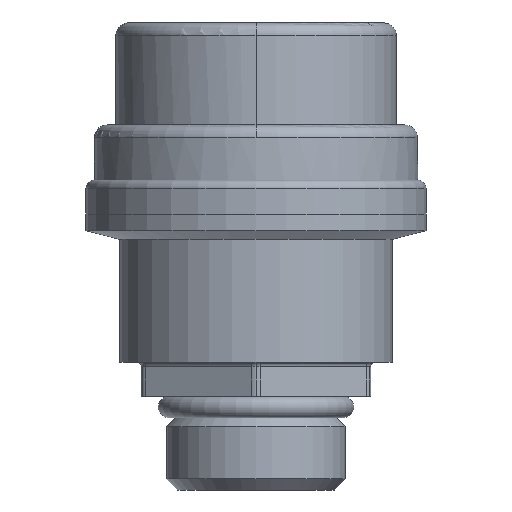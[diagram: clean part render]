
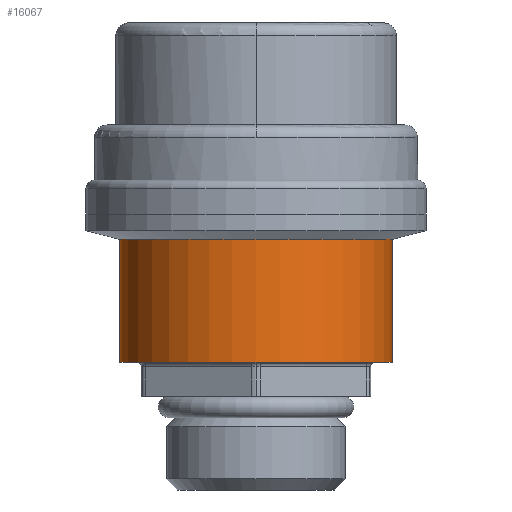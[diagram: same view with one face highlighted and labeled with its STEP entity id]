
A CAD part, front view. The second image highlights one B-rep face of the part: STEP entity #16067.
In plain terms, the highlighted cylindrical face has radius 16 mm (diameter 32 mm), a full revolution.
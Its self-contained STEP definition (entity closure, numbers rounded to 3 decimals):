
#14886=CARTESIAN_POINT('',(-0.,-16.,15.038));
#14887=VERTEX_POINT('',#14886);
#14888=CARTESIAN_POINT('',(0.,16.,15.038));
#14889=VERTEX_POINT('',#14888);
#14890=CARTESIAN_POINT('',(0.,0.,15.038));
#14891=DIRECTION('',(0.,-0.,1.));
#14892=DIRECTION('',(0.,-1.,-0.));
#14893=AXIS2_PLACEMENT_3D('',#14890,#14891,#14892);
#14894=CIRCLE('',#14893,16.);
#14895=EDGE_CURVE('',#14887,#14889,#14894,.T.);
#14897=CARTESIAN_POINT('',(0.,0.,15.038));
#14898=DIRECTION('',(0.,-0.,1.));
#14899=DIRECTION('',(0.,-1.,-0.));
#14900=AXIS2_PLACEMENT_3D('',#14897,#14898,#14899);
#14901=CIRCLE('',#14900,16.);
#14902=EDGE_CURVE('',#14889,#14887,#14901,.T.);
#16033=CARTESIAN_POINT('',(0.,0.,22.276));
#16034=DIRECTION('',(0.,-0.,1.));
#16035=DIRECTION('',(0.,-1.,-0.));
#16036=AXIS2_PLACEMENT_3D('',#16033,#16034,#16035);
#16037=CYLINDRICAL_SURFACE('',#16036,16.);
#16038=CARTESIAN_POINT('',(-0.,-16.,29.515));
#16039=VERTEX_POINT('',#16038);
#16040=CARTESIAN_POINT('',(0.,-16.,29.515));
#16041=DIRECTION('',(-0.,0.,-1.));
#16042=VECTOR('',#16041,14.477);
#16043=LINE('',#16040,#16042);
#16044=EDGE_CURVE('',#16039,#14887,#16043,.T.);
#16045=ORIENTED_EDGE('',*,*,#16044,.T.);
#16046=ORIENTED_EDGE('',*,*,#14895,.T.);
#16047=ORIENTED_EDGE('',*,*,#14902,.T.);
#16048=ORIENTED_EDGE('',*,*,#16044,.F.);
#16049=CARTESIAN_POINT('',(0.,16.,29.515));
#16050=VERTEX_POINT('',#16049);
#16051=CARTESIAN_POINT('',(0.,0.,29.515));
#16052=DIRECTION('',(0.,-0.,1.));
#16053=DIRECTION('',(0.,-1.,-0.));
#16054=AXIS2_PLACEMENT_3D('',#16051,#16052,#16053);
#16055=CIRCLE('',#16054,16.);
#16056=EDGE_CURVE('',#16050,#16039,#16055,.T.);
#16057=ORIENTED_EDGE('',*,*,#16056,.F.);
#16058=CARTESIAN_POINT('',(0.,0.,29.515));
#16059=DIRECTION('',(0.,-0.,1.));
#16060=DIRECTION('',(0.,-1.,-0.));
#16061=AXIS2_PLACEMENT_3D('',#16058,#16059,#16060);
#16062=CIRCLE('',#16061,16.);
#16063=EDGE_CURVE('',#16039,#16050,#16062,.T.);
#16064=ORIENTED_EDGE('',*,*,#16063,.F.);
#16065=EDGE_LOOP('',(#16045,#16046,#16047,#16048,#16057,#16064));
#16066=FACE_BOUND('',#16065,.T.);
#16067=ADVANCED_FACE('',(#16066),#16037,.T.);
